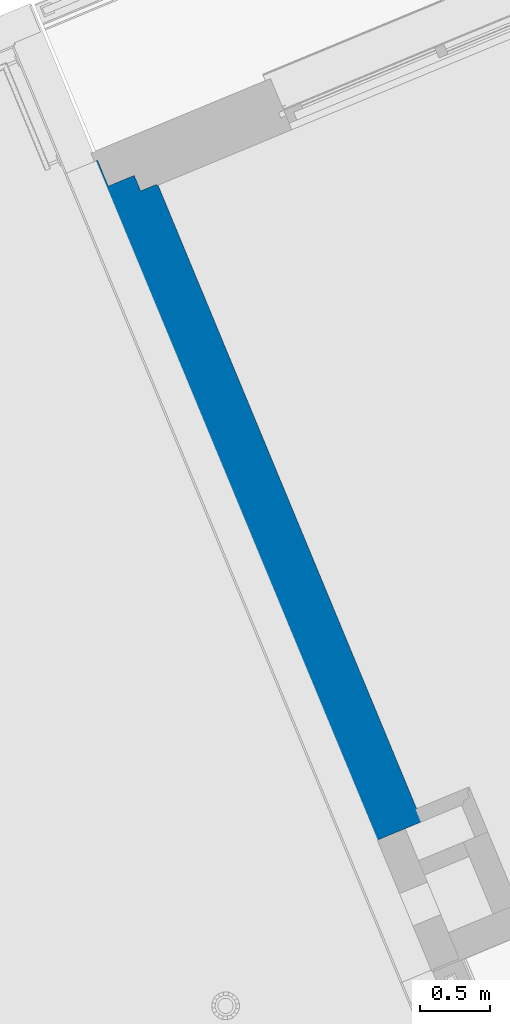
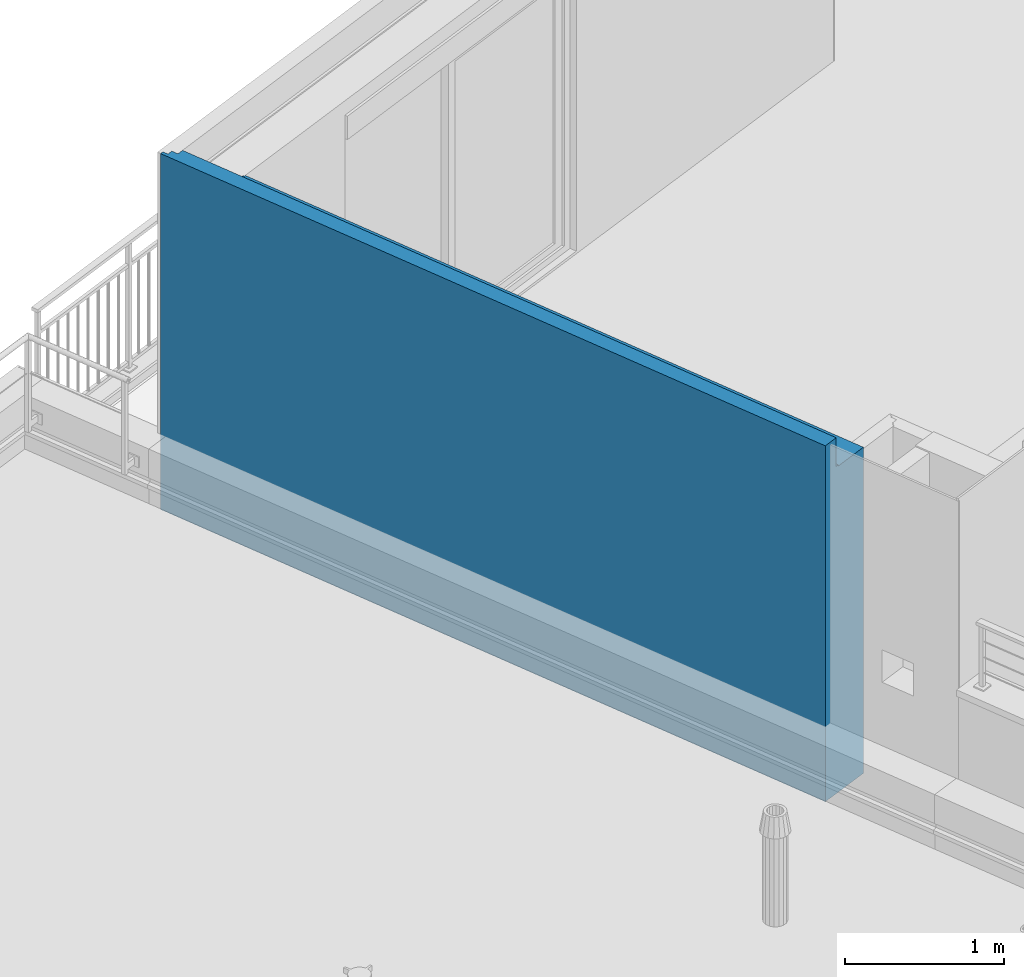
# One storey, part 20 of 62: 1 wall.
"""IFC2X3 building model written with IfcOpenShell, lengths in metres."""

from ifc_helpers import new_model, entity, si_unit, converted_unit, derived_unit, money_unit, direction, frame, origin_with_axes, place, context, subcontext, project, spatial, faceted_brep, material, material_list, type_object, element, save


model = new_model("IFC2X3")

# Units and contexts
model_context = context("Model", 3, precision=1e-05, world=origin_with_axes(), true_north=direction((0.0, 1.0)))
body_context = subcontext(model_context, "Body", "Model", "MODEL_VIEW")
ifc_project = project(units=[si_unit("LENGTHUNIT", "METRE"), si_unit("AREAUNIT", "SQUARE_METRE"), si_unit("VOLUMEUNIT", "CUBIC_METRE"), converted_unit("PLANEANGLEUNIT", "DEGREE", entity("IfcPlaneAngleMeasure", 0.0174532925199), si_unit("PLANEANGLEUNIT", "RADIAN"), dimensions=[0, 0, 0, 0, 0, 0, 0]), si_unit("SOLIDANGLEUNIT", "STERADIAN"), money_unit("EUR"), converted_unit("TIMEUNIT", "Year", entity("IfcTimeMeasure", 31556926.0), si_unit("TIMEUNIT", "SECOND"), dimensions=[0, 0, 1, 0, 0, 0, 0]), si_unit("MASSUNIT", "GRAM", prefix="KILO"), si_unit("THERMODYNAMICTEMPERATUREUNIT", "DEGREE_CELSIUS"), si_unit("LUMINOUSINTENSITYUNIT", "LUMEN"), si_unit("ENERGYUNIT", "JOULE", prefix="MEGA"), derived_unit("THERMALCONDUCTANCEUNIT", [(si_unit("POWERUNIT", "WATT"), 1), (si_unit("LENGTHUNIT", "METRE"), -1), (si_unit("THERMODYNAMICTEMPERATUREUNIT", "KELVIN"), -1)]), derived_unit("SPECIFICHEATCAPACITYUNIT", [(si_unit("ENERGYUNIT", "JOULE"), 1), (si_unit("MASSUNIT", "GRAM", prefix="KILO"), -1), (si_unit("THERMODYNAMICTEMPERATUREUNIT", "KELVIN"), -1)]), derived_unit("MASSDENSITYUNIT", [(si_unit("MASSUNIT", "GRAM", prefix="KILO"), 1), (si_unit("VOLUMEUNIT", "CUBIC_METRE"), -1)])], contexts=[model_context])

# Site, building, storey
site_placement = place(None, origin_with_axes())
site = spatial("IfcSite", under=ifc_project, at=site_placement, Name="Site", CompositionType="ELEMENT")
building_placement = place(site_placement, origin_with_axes())
building = spatial("IfcBuilding", under=site, at=building_placement, Name="Bâtiment", CompositionType="ELEMENT")
storey_placement = place(building_placement, frame((0.0, 0.0, 8.16), z_axis=(0.0, 0.0, 1.0), x_axis=(1.0, 0.0, 0.0)))
storey = spatial("IfcBuildingStorey", under=building, at=storey_placement, Name="R+3", CompositionType="ELEMENT", Elevation=8.16)

# Wall
ifc_material_1 = material(Name="Finition int - Plaque de plâtre")
ifc_material_2 = material(Name="Isolation - Polystyrène extrudé")
ifc_material_3 = material(Name="Bloc ELITHERM")
ifc_material_4 = material(Name="Mortier")
ifc_material_5 = material(Name="Béton cellulaire")
ifc_material_6 = material(Name="Bois - Lattage")
ifc_material_7 = material(Name="Finition ext - Bardage bois")
ifc_material_list = material_list([ifc_material_1, ifc_material_2, ifc_material_3, ifc_material_4, ifc_material_5, ifc_material_6, ifc_material_7])
wall_type = type_object("IfcWallType", Name="Mur ALKERN + planelle 23 BARDAGE courant 395 x 2740", PredefinedType="USERDEFINED")
wall_placement = place(storey_placement, frame((-25.5960010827, -15.1549346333, 0.0), z_axis=(0.0, 0.0, 1.0), x_axis=(0.383112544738, -0.923701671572, 0.0)))
element("IfcWall", 1, at=wall_placement, inside=storey, type_object=wall_type, material=ifc_material_list, Name="Mue bloc ALKERN isolé", ObjectType="SOLIDWALL", context=body_context, shape_type="Brep", body=[
    faceted_brep([(5.27173813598, 0.35999998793, 0.0), (0.359999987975, 0.35999998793, 0.0), (0.359999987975, 0.35999998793, 2.51), (5.27173813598, 0.35999998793, 2.51), (5.27173813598, 0.350000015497, 0.0), (0.359999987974, 0.350000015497, 0.0), (0.359999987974, 0.350000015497, 2.51), (5.27173813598, 0.350000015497, 2.51)], [[[0, 1, 2, 3]], [[4, 5, 1, 0]], [[5, 6, 2, 1]], [[3, 2, 6, 7]], [[7, 4, 0, 3]], [[7, 6, 5, 4]]]),
    faceted_brep([(5.27173813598, 0.350000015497, 0.0), (0.350000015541, 0.350000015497, 0.0), (0.350000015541, 0.350000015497, 2.51), (5.27173813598, 0.350000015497, 2.51), (5.27173813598, 0.230000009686, 0.0), (0.350000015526, 0.230000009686, 0.0), (0.350000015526, 0.230000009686, 2.51), (5.27173813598, 0.230000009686, 2.51)], [[[0, 1, 2, 3]], [[4, 5, 1, 0]], [[5, 6, 2, 1]], [[3, 2, 6, 7]], [[7, 4, 0, 3]], [[7, 6, 5, 4]]]),
    faceted_brep([(0.229999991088, 0.229999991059, 0.0), (0.229999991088, 0.229999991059, 2.50999999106), (5.27173813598, 0.229999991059, 2.50999999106), (5.27173813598, 0.229999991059, 0.0), (0.229999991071, 0.0979999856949, 2.50999999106), (0.229999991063, 0.03, 0.0), (0.229999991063, 0.03, 2.50999999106), (5.27173813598, 0.0979999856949, 2.50999999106), (5.27173813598, 0.03, 2.50999999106), (5.27173813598, 0.03, 0.0)], [[[0, 1, 2, 3]], [[4, 1, 0, 5, 6]], [[1, 4, 7, 2]], [[2, 7, 8, 9, 3]], [[5, 0, 3, 9]], [[6, 5, 9, 8]], [[4, 6, 8, 7]]]),
    faceted_brep([(0.0980000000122, 0.098, 2.51), (0.0980000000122, 0.098, 2.52), (5.27173813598, 0.098, 2.52), (5.27173813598, 0.098, 2.51), (0.0980000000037, 0.03, 2.52), (0.0980000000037, 0.03, 2.51), (5.27173813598, 0.03, 2.52), (5.27173813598, 0.03, 2.51)], [[[0, 1, 2, 3]], [[4, 1, 0, 5]], [[1, 4, 6, 2]], [[7, 3, 2, 6]], [[5, 0, 3, 7]], [[4, 5, 7, 6]]]),
    faceted_brep([(0.0780000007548, 0.0780000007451, 2.5200000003), (0.0780000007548, 0.0780000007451, 2.74), (5.27173813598, 0.0780000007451, 2.74), (5.27173813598, 0.0780000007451, 2.5200000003), (0.0780000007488, 0.03, 2.74), (0.0780000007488, 0.03, 2.5200000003), (5.27173813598, 0.03, 2.74), (5.27173813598, 0.03, 2.5200000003)], [[[0, 1, 2, 3]], [[4, 1, 0, 5]], [[1, 4, 6, 2]], [[6, 7, 3, 2]], [[5, 0, 3, 7]], [[4, 5, 7, 6]]]),
    faceted_brep([(0.0300000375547, 0.030000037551, 2.74), (5.27173813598, 0.030000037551, 2.74), (5.27173813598, 0.030000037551, 0.0), (0.0300000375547, 0.030000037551, 0.0), (0.0300000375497, -0.00999998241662, 2.74), (5.27173813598, -0.00999998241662, 2.74), (5.27173813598, -0.00999998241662, 0.0), (0.0300000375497, -0.00999998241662, 0.0)], [[[0, 1, 2, 3]], [[1, 0, 4, 5]], [[6, 2, 1, 5]], [[6, 7, 3, 2]], [[7, 4, 0, 3]], [[5, 4, 7, 6]]]),
    faceted_brep([(-0.0100000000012, -0.01, 2.74), (5.27173813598, -0.01, 2.74), (5.27173813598, -0.01, 0.0), (-0.0100000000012, -0.01, 0.0), (-0.0100000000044, -0.035, 2.74), (5.27173813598, -0.035, 2.74), (5.27173813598, -0.035, 0.0), (-0.0100000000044, -0.035, 0.0)], [[[0, 1, 2, 3]], [[1, 0, 4, 5]], [[1, 5, 6, 2]], [[6, 7, 3, 2]], [[7, 4, 0, 3]], [[5, 4, 7, 6]]]),
])

save(model, "model.ifc")
